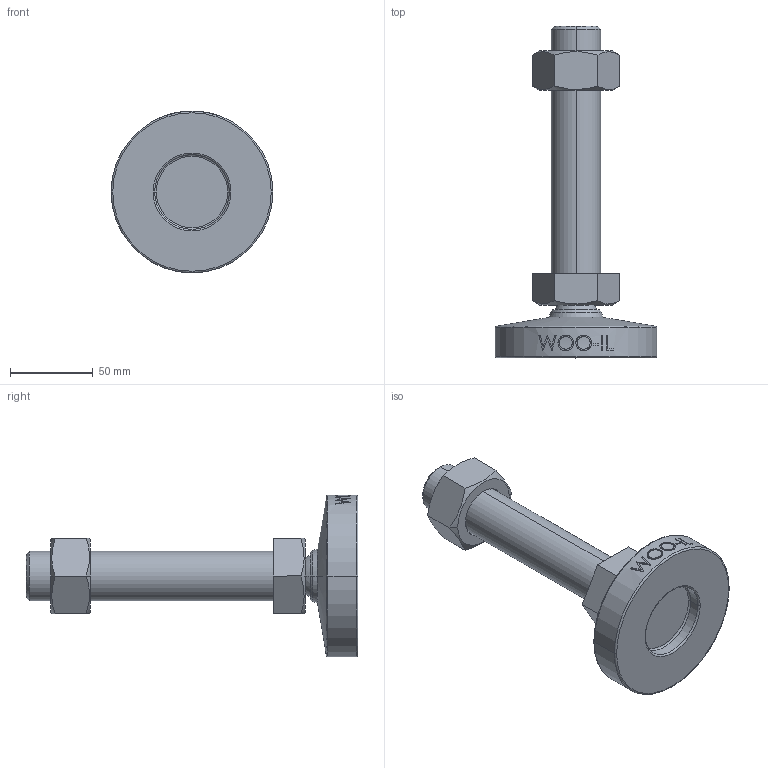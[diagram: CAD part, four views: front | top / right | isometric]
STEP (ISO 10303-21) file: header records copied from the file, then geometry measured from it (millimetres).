
FILE_DESCRIPTION (( 'STEP AP214' ), '1' );
FILE_NAME ('MFN98-M30-150.step', '2021-01-19T06:31:56', ( '' ), ( '' ), 'SwSTEP 2.0', 'SolidWorks 2019', '' );
FILE_SCHEMA (( 'AUTOMOTIVE_DESIGN' ));
Length unit declared in the file: millimetre
Products named in the file (2): MFN98-M30-150
Bounding box: 98 x 201 x 98 mm (x, y, z)
Volume: 321981 mm3; surface area: 50084.5 mm2
Topology: 2 solids, 2 shells, 107 faces, 247 edges, 156 vertices
Faces by surface type: plane 47, cone 18, cylinder 16, bspline 16, torus 8, sphere 2
Entity records: 4647 total; most frequent: CARTESIAN_POINT 2280, ORIENTED_EDGE 494, DIRECTION 447, EDGE_CURVE 247, AXIS2_PLACEMENT_3D 173, VERTEX_POINT 156, EDGE_LOOP 121, ADVANCED_FACE 107
